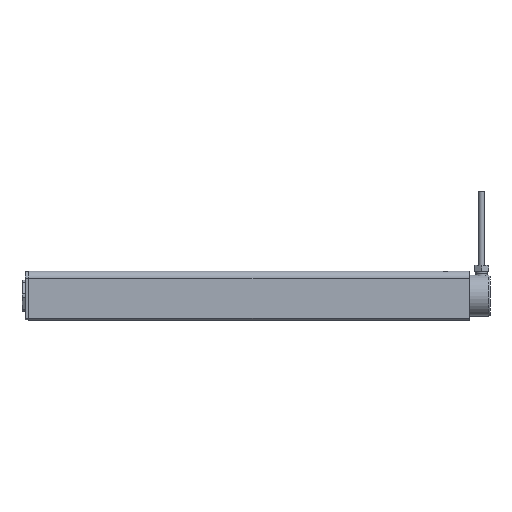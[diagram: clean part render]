
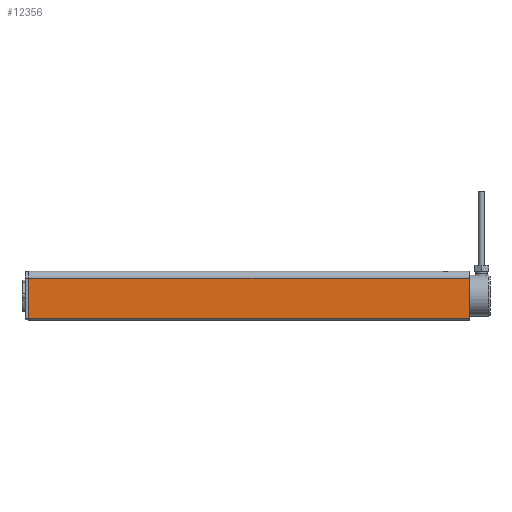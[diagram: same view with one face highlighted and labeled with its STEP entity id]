
A CAD part, left-side view. The second image highlights one B-rep face of the part: STEP entity #12356.
In plain terms, the highlighted planar face has unit normal (-1, 0, 0).
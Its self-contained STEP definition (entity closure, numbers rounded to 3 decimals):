
#645=PLANE('',#13218);
#1945=ORIENTED_EDGE('',*,*,#5391,.T.);
#1946=ORIENTED_EDGE('',*,*,#5397,.T.);
#1947=ORIENTED_EDGE('',*,*,#5381,.F.);
#1948=ORIENTED_EDGE('',*,*,#5398,.T.);
#5381=EDGE_CURVE('',#7103,#7104,#8158,.T.);
#5391=EDGE_CURVE('',#7114,#7113,#8165,.T.);
#5397=EDGE_CURVE('',#7113,#7104,#8170,.F.);
#5398=EDGE_CURVE('',#7103,#7114,#8171,.T.);
#7103=VERTEX_POINT('',#20087);
#7104=VERTEX_POINT('',#20088);
#7113=VERTEX_POINT('',#20107);
#7114=VERTEX_POINT('',#20109);
#8158=LINE('',#20086,#8735);
#8165=LINE('',#20108,#8742);
#8170=LINE('',#20120,#8747);
#8171=LINE('',#20121,#8748);
#8735=VECTOR('',#14358,1000.);
#8742=VECTOR('',#14373,1000.);
#8747=VECTOR('',#14382,1000.);
#8748=VECTOR('',#14383,1000.);
#9300=EDGE_LOOP('',(#1945,#1946,#1947,#1948));
#10219=FACE_BOUND('',#9300,.T.);
#12356=ADVANCED_FACE('',(#10219),#645,.F.);
#13218=AXIS2_PLACEMENT_3D('',#20119,#14380,#14381);
#14358=DIRECTION('',(0.,0.,1.));
#14373=DIRECTION('',(0.,0.,1.));
#14380=DIRECTION('',(1.,0.,0.));
#14381=DIRECTION('',(0.,0.,-1.));
#14382=DIRECTION('',(0.,-1.,0.));
#14383=DIRECTION('',(0.,-1.,0.));
#20086=CARTESIAN_POINT('',(-17.5,314.5,-17.5));
#20087=CARTESIAN_POINT('',(-17.5,314.5,-16.));
#20088=CARTESIAN_POINT('',(-17.5,314.5,12.5));
#20107=CARTESIAN_POINT('',(-17.5,0.,12.5));
#20108=CARTESIAN_POINT('',(-17.5,0.,-17.5));
#20109=CARTESIAN_POINT('',(-17.5,0.,-16.));
#20119=CARTESIAN_POINT('',(-17.5,314.5,-17.5));
#20120=CARTESIAN_POINT('',(-17.5,314.5,12.5));
#20121=CARTESIAN_POINT('',(-17.5,314.5,-16.));
